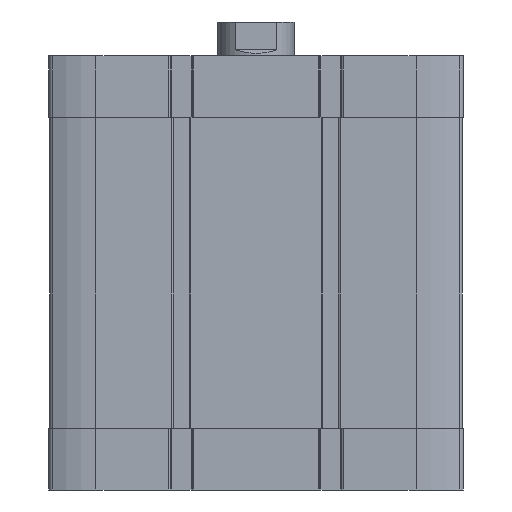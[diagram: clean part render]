
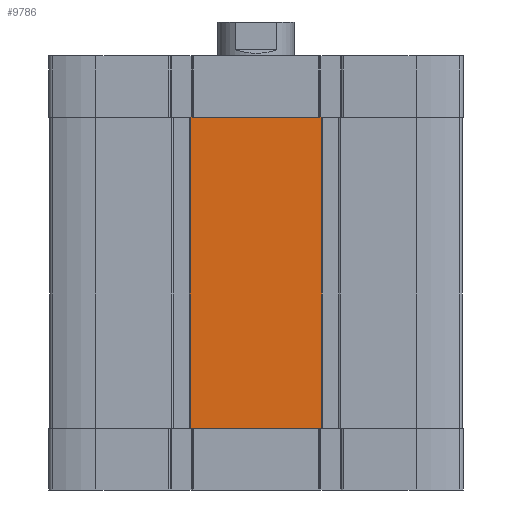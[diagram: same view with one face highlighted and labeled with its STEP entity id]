
A CAD part, front view. The second image highlights one B-rep face of the part: STEP entity #9786.
In plain terms, the highlighted planar face has unit normal (0, -1, 0).
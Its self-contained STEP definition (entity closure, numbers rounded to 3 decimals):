
#596 = EDGE_CURVE ( 'NONE', #16616, #9169, #14806, .T. ) ;
#788 = LINE ( 'NONE', #12513, #13427 ) ;
#1222 = LINE ( 'NONE', #4001, #3115 ) ;
#1317 = CARTESIAN_POINT ( 'NONE',  ( -67., -67., -121. ) ) ;
#1412 = VERTEX_POINT ( 'NONE', #16476 ) ;
#1876 = EDGE_CURVE ( 'NONE', #1412, #8470, #2195, .T. ) ;
#1903 = VECTOR ( 'NONE', #10712, 1000. ) ;
#1981 = VECTOR ( 'NONE', #5373, 1000. ) ;
#2195 = LINE ( 'NONE', #11742, #6477 ) ;
#2414 = CARTESIAN_POINT ( 'NONE',  ( -21.3, -67., -20. ) ) ;
#2540 = CARTESIAN_POINT ( 'NONE',  ( 20.687, -67., -121. ) ) ;
#3115 = VECTOR ( 'NONE', #15902, 1000. ) ;
#3431 = CARTESIAN_POINT ( 'NONE',  ( -20.687, -67., -121. ) ) ;
#3497 = DIRECTION ( 'NONE',  ( 1., 0., 0. ) ) ;
#3606 = AXIS2_PLACEMENT_3D ( 'NONE', #1317, #10519, #13294 ) ;
#4001 = CARTESIAN_POINT ( 'NONE',  ( -67., -67., -20. ) ) ;
#4010 = PLANE ( 'NONE',  #3606 ) ;
#4721 = CARTESIAN_POINT ( 'NONE',  ( 20.687, -67., -20. ) ) ;
#4841 = ORIENTED_EDGE ( 'NONE', *, *, #10835, .T. ) ;
#5350 = VECTOR ( 'NONE', #14042, 1000. ) ;
#5362 = CARTESIAN_POINT ( 'NONE',  ( -21.3, -67., -121. ) ) ;
#5373 = DIRECTION ( 'NONE',  ( 0., 0., 1. ) ) ;
#5417 = LINE ( 'NONE', #7948, #10530 ) ;
#5457 = LINE ( 'NONE', #13526, #1981 ) ;
#5727 = DIRECTION ( 'NONE',  ( 1., 0., 0. ) ) ;
#5800 = EDGE_LOOP ( 'NONE', ( #13049, #16046, #4841, #14338, #6148, #8574, #15835, #11710 ) ) ;
#6141 = LINE ( 'NONE', #16479, #5350 ) ;
#6148 = ORIENTED_EDGE ( 'NONE', *, *, #596, .T. ) ;
#6396 = CARTESIAN_POINT ( 'NONE',  ( 21.3, -67., -20. ) ) ;
#6477 = VECTOR ( 'NONE', #3497, 1000. ) ;
#6913 = EDGE_CURVE ( 'NONE', #10577, #15837, #13625, .T. ) ;
#7948 = CARTESIAN_POINT ( 'NONE',  ( -67., -67., -20. ) ) ;
#8470 = VERTEX_POINT ( 'NONE', #4721 ) ;
#8574 = ORIENTED_EDGE ( 'NONE', *, *, #15906, .F. ) ;
#9169 = VERTEX_POINT ( 'NONE', #6396 ) ;
#9244 = DIRECTION ( 'NONE',  ( 1., 0., 0. ) ) ;
#9786 = ADVANCED_FACE ( 'NONE', ( #10773 ), #4010, .T. ) ;
#10139 = CARTESIAN_POINT ( 'NONE',  ( 21.3, -67., -121. ) ) ;
#10519 = DIRECTION ( 'NONE',  ( 0., -1., 0. ) ) ;
#10530 = VECTOR ( 'NONE', #9244, 1000. ) ;
#10541 = CARTESIAN_POINT ( 'NONE',  ( 21.3, -67., -121. ) ) ;
#10577 = VERTEX_POINT ( 'NONE', #5362 ) ;
#10712 = DIRECTION ( 'NONE',  ( 0., 0., 1. ) ) ;
#10773 = FACE_OUTER_BOUND ( 'NONE', #5800, .T. ) ;
#10835 = EDGE_CURVE ( 'NONE', #15837, #12322, #6141, .T. ) ;
#11710 = ORIENTED_EDGE ( 'NONE', *, *, #13802, .F. ) ;
#11742 = CARTESIAN_POINT ( 'NONE',  ( -21.3, -67., -20. ) ) ;
#12322 = VERTEX_POINT ( 'NONE', #2540 ) ;
#12513 = CARTESIAN_POINT ( 'NONE',  ( -67., -67., -121. ) ) ;
#12637 = EDGE_CURVE ( 'NONE', #12322, #16616, #788, .T. ) ;
#12911 = VECTOR ( 'NONE', #5727, 1000. ) ;
#13049 = ORIENTED_EDGE ( 'NONE', *, *, #13256, .F. ) ;
#13256 = EDGE_CURVE ( 'NONE', #10577, #14934, #5457, .T. ) ;
#13294 = DIRECTION ( 'NONE',  ( 0., 0., -1. ) ) ;
#13427 = VECTOR ( 'NONE', #15391, 1000. ) ;
#13526 = CARTESIAN_POINT ( 'NONE',  ( -21.3, -67., -121. ) ) ;
#13625 = LINE ( 'NONE', #15110, #12911 ) ;
#13802 = EDGE_CURVE ( 'NONE', #14934, #1412, #1222, .T. ) ;
#14042 = DIRECTION ( 'NONE',  ( 1., 0., 0. ) ) ;
#14338 = ORIENTED_EDGE ( 'NONE', *, *, #12637, .T. ) ;
#14806 = LINE ( 'NONE', #10541, #1903 ) ;
#14934 = VERTEX_POINT ( 'NONE', #2414 ) ;
#15110 = CARTESIAN_POINT ( 'NONE',  ( -67., -67., -121. ) ) ;
#15391 = DIRECTION ( 'NONE',  ( 1., 0., 0. ) ) ;
#15835 = ORIENTED_EDGE ( 'NONE', *, *, #1876, .F. ) ;
#15837 = VERTEX_POINT ( 'NONE', #3431 ) ;
#15902 = DIRECTION ( 'NONE',  ( 1., 0., 0. ) ) ;
#15906 = EDGE_CURVE ( 'NONE', #8470, #9169, #5417, .T. ) ;
#16046 = ORIENTED_EDGE ( 'NONE', *, *, #6913, .T. ) ;
#16476 = CARTESIAN_POINT ( 'NONE',  ( -20.687, -67., -20. ) ) ;
#16479 = CARTESIAN_POINT ( 'NONE',  ( -21.3, -67., -121. ) ) ;
#16616 = VERTEX_POINT ( 'NONE', #10139 ) ;
